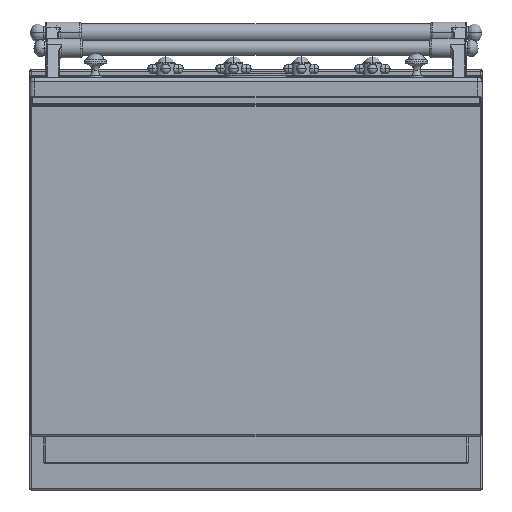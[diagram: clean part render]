
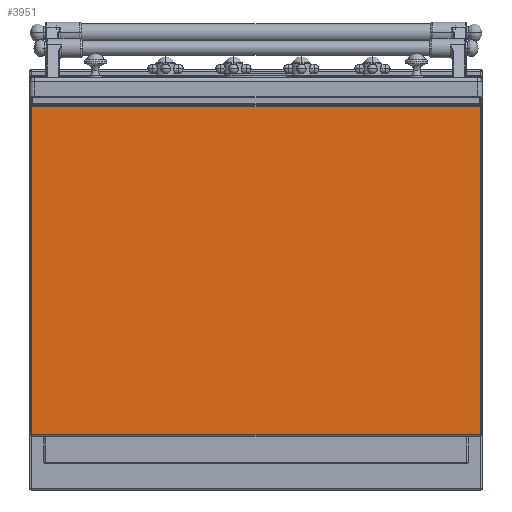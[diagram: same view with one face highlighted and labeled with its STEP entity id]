
A CAD part, front view. The second image highlights one B-rep face of the part: STEP entity #3951.
In plain terms, the highlighted planar face has unit normal (0, -1, 0).
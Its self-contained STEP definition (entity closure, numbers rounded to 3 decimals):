
#3582=DIRECTION('',(0.,0.,-1.));
#3583=VECTOR('',#3582,508.);
#3584=CARTESIAN_POINT('',(347.,0.,254.));
#3585=LINE('',#3584,#3583);
#3586=DIRECTION('',(-1.,0.,0.));
#3587=VECTOR('',#3586,694.);
#3588=CARTESIAN_POINT('',(347.,0.,-254.));
#3589=LINE('',#3588,#3587);
#3590=DIRECTION('',(0.,0.,1.));
#3591=VECTOR('',#3590,508.);
#3592=CARTESIAN_POINT('',(-347.,0.,-254.));
#3593=LINE('',#3592,#3591);
#3594=DIRECTION('',(-1.,0.,0.));
#3595=VECTOR('',#3594,694.);
#3596=CARTESIAN_POINT('',(347.,0.,254.));
#3597=LINE('',#3596,#3595);
#3729=CARTESIAN_POINT('',(347.,0.,254.));
#3730=CARTESIAN_POINT('',(347.,0.,-254.));
#3731=VERTEX_POINT('',#3729);
#3732=VERTEX_POINT('',#3730);
#3741=CARTESIAN_POINT('',(-347.,0.,-254.));
#3742=CARTESIAN_POINT('',(-347.,0.,254.));
#3743=VERTEX_POINT('',#3741);
#3744=VERTEX_POINT('',#3742);
#3939=CARTESIAN_POINT('',(-349.,0.,256.));
#3940=DIRECTION('',(0.,-1.,0.));
#3941=DIRECTION('',(0.,0.,-1.));
#3942=AXIS2_PLACEMENT_3D('',#3939,#3940,#3941);
#3943=PLANE('',#3942);
#3944=ORIENTED_EDGE('',*,*,#3929,.T.);
#3946=ORIENTED_EDGE('',*,*,#3945,.T.);
#3947=ORIENTED_EDGE('',*,*,#3866,.T.);
#3948=ORIENTED_EDGE('',*,*,#3906,.F.);
#3949=EDGE_LOOP('',(#3944,#3946,#3947,#3948));
#3950=FACE_OUTER_BOUND('',#3949,.F.);
#3866=EDGE_CURVE('',#3743,#3744,#3593,.T.);
#3906=EDGE_CURVE('',#3731,#3744,#3597,.T.);
#3929=EDGE_CURVE('',#3731,#3732,#3585,.T.);
#3945=EDGE_CURVE('',#3732,#3743,#3589,.T.);
#3951=ADVANCED_FACE('',(#3950),#3943,.T.);
